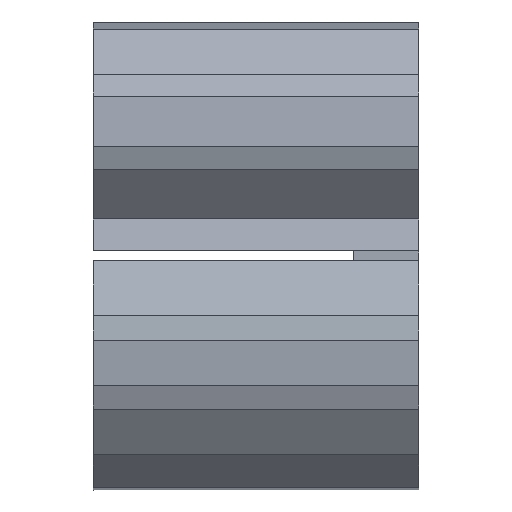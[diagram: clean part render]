
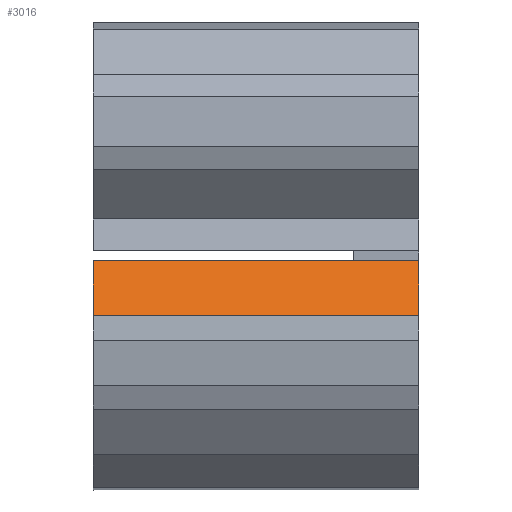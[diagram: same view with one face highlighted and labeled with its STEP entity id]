
A CAD part, left-side view. The second image highlights one B-rep face of the part: STEP entity #3016.
In plain terms, the highlighted planar face has unit normal (-0.911, 0, 0.413).
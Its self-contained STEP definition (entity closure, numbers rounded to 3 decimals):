
#197 = DIRECTION ( 'NONE',  ( -0.413, 0., -0.911 ) ) ;
#205 = DIRECTION ( 'NONE',  ( 0.911, 0., -0.413 ) ) ;
#262 = CARTESIAN_POINT ( 'NONE',  ( 1038.144, 106., 1714.787 ) ) ;
#268 = PLANE ( 'NONE',  #985 ) ;
#279 = VERTEX_POINT ( 'NONE', #3091 ) ;
#353 = LINE ( 'NONE', #1898, #1584 ) ;
#401 = ORIENTED_EDGE ( 'NONE', *, *, #2375, .T. ) ;
#596 = CARTESIAN_POINT ( 'NONE',  ( 1040.234, 101.5, 1719.397 ) ) ;
#760 = CARTESIAN_POINT ( 'NONE',  ( 1040.234, 124., 1719.397 ) ) ;
#774 = EDGE_CURVE ( 'NONE', #279, #3261, #2518, .T. ) ;
#985 = AXIS2_PLACEMENT_3D ( 'NONE', #262, #205, #197 ) ;
#1117 = ORIENTED_EDGE ( 'NONE', *, *, #2297, .F. ) ;
#1341 = EDGE_LOOP ( 'NONE', ( #2425, #3097, #401, #1117 ) ) ;
#1392 = CARTESIAN_POINT ( 'NONE',  ( 1038.515, 124., 1715.607 ) ) ;
#1584 = VECTOR ( 'NONE', #1888, 1000. ) ;
#1671 = LINE ( 'NONE', #2650, #3212 ) ;
#1697 = DIRECTION ( 'NONE',  ( 0., 1., 0. ) ) ;
#1700 = CARTESIAN_POINT ( 'NONE',  ( 1040.234, 106., 1719.397 ) ) ;
#1888 = DIRECTION ( 'NONE',  ( 0.413, 0., 0.911 ) ) ;
#1898 = CARTESIAN_POINT ( 'NONE',  ( 1038.144, 124., 1714.787 ) ) ;
#1908 = FACE_OUTER_BOUND ( 'NONE', #1341, .T. ) ;
#2002 = EDGE_CURVE ( 'NONE', #279, #2745, #1671, .T. ) ;
#2132 = VECTOR ( 'NONE', #1697, 1000. ) ;
#2297 = EDGE_CURVE ( 'NONE', #3261, #2659, #353, .T. ) ;
#2375 = EDGE_CURVE ( 'NONE', #2745, #2659, #2750, .T. ) ;
#2425 = ORIENTED_EDGE ( 'NONE', *, *, #774, .F. ) ;
#2518 = LINE ( 'NONE', #3335, #2610 ) ;
#2610 = VECTOR ( 'NONE', #3315, 1000. ) ;
#2647 = DIRECTION ( 'NONE',  ( 0.413, 0., 0.911 ) ) ;
#2650 = CARTESIAN_POINT ( 'NONE',  ( 1038.515, 101.5, 1715.607 ) ) ;
#2659 = VERTEX_POINT ( 'NONE', #760 ) ;
#2745 = VERTEX_POINT ( 'NONE', #596 ) ;
#2750 = LINE ( 'NONE', #1700, #2132 ) ;
#3016 = ADVANCED_FACE ( 'NONE', ( #1908 ), #268, .F. ) ;
#3091 = CARTESIAN_POINT ( 'NONE',  ( 1038.515, 101.5, 1715.607 ) ) ;
#3097 = ORIENTED_EDGE ( 'NONE', *, *, #2002, .T. ) ;
#3212 = VECTOR ( 'NONE', #2647, 1000. ) ;
#3261 = VERTEX_POINT ( 'NONE', #1392 ) ;
#3315 = DIRECTION ( 'NONE',  ( 0., 1., 0. ) ) ;
#3335 = CARTESIAN_POINT ( 'NONE',  ( 1038.515, 106., 1715.607 ) ) ;
